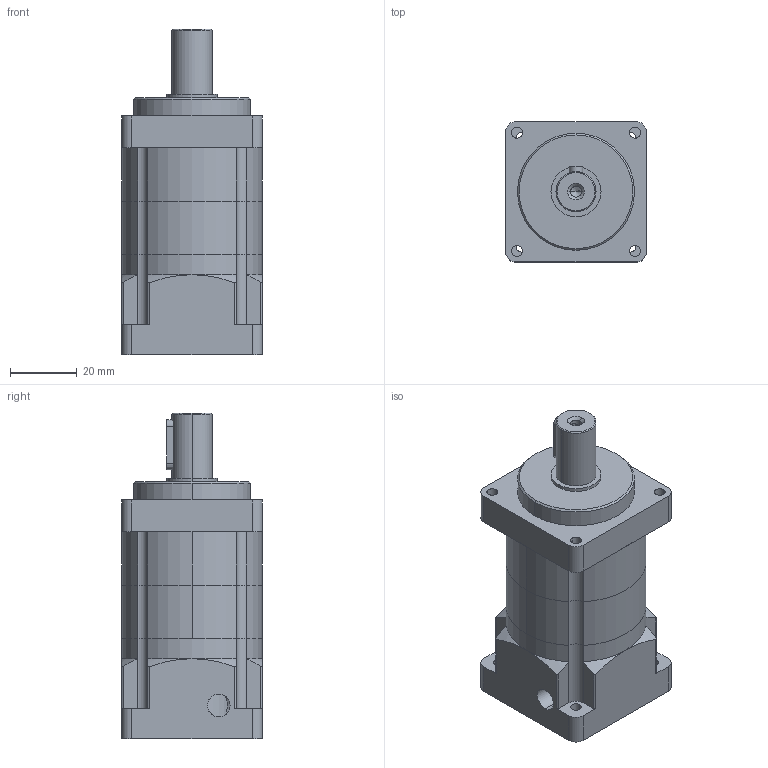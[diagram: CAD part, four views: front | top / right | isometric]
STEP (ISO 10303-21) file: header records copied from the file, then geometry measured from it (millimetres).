
FILE_DESCRIPTION (( 'STEP AP203' ), '1' );
FILE_NAME ('SL-040-025.STEP', '2010-05-19T15:11:01', ( 'render' ), ( '' ), 'SwSTEP 2.0', 'SolidWorks 2009', '' );
FILE_SCHEMA (( 'CONFIG_CONTROL_DESIGN' ));
Length unit declared in the file: millimetre
Products named in the file (1): SL-040-025
Bounding box: 42 x 42 x 97.5 mm (x, y, z)
Volume: 105551.3 mm3; surface area: 32411.1 mm2
Topology: 7 solids, 7 shells, 160 faces, 415 edges, 271 vertices
Faces by surface type: cylinder 82, plane 59, cone 11, sphere 8
Entity records: 5209 total; most frequent: CARTESIAN_POINT 1055, DIRECTION 896, ORIENTED_EDGE 824, EDGE_CURVE 412, AXIS2_PLACEMENT_3D 340, VERTEX_POINT 271, LINE 216, VECTOR 216
